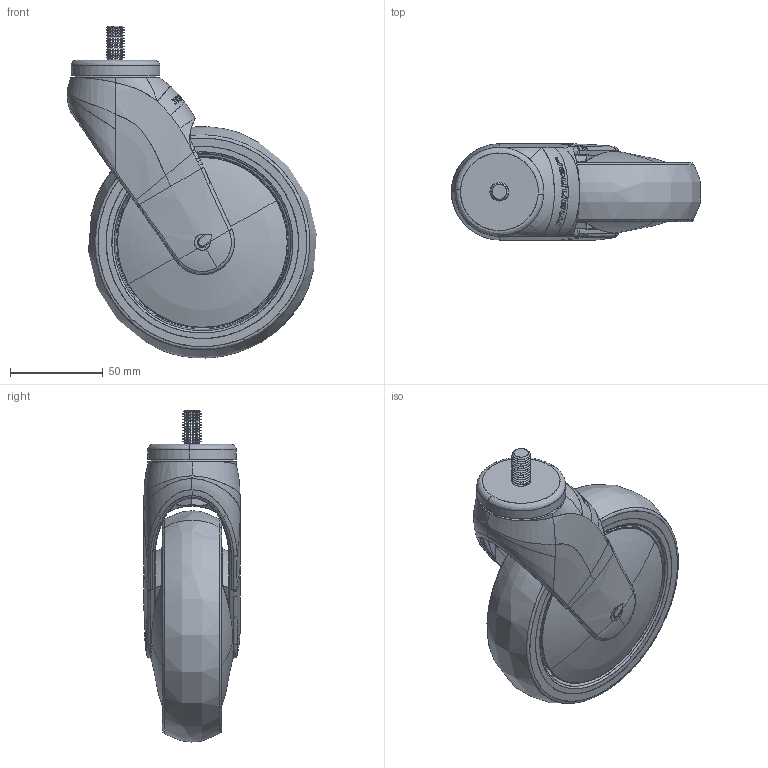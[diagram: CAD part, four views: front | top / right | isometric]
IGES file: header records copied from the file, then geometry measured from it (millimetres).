
Start section: SolidWorks IGES file using analytic representation for surfaces
Global section: file name: S:\Tyokansio\VL\301676_IGES.IGS; native system: SolidWorks 2011; preprocessor: SolidWorks 2011; author: VilleLa; date: 110610.113158; units: millimetre
Bounding box: 134.8 x 52.08 x 179.43 mm (x, y, z)
Surface area: 97074.3 mm2 (no closed solid volume)
Topology: 0 solids, 0 shells, 442 faces, 5918 edges, 5832 vertices
Faces by surface type: bspline 326, revolution 116
